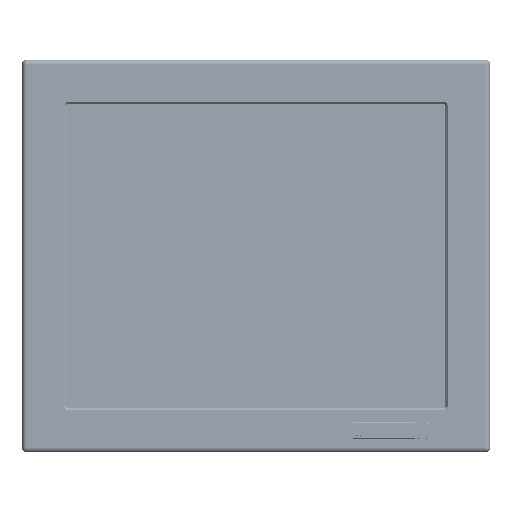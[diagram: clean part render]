
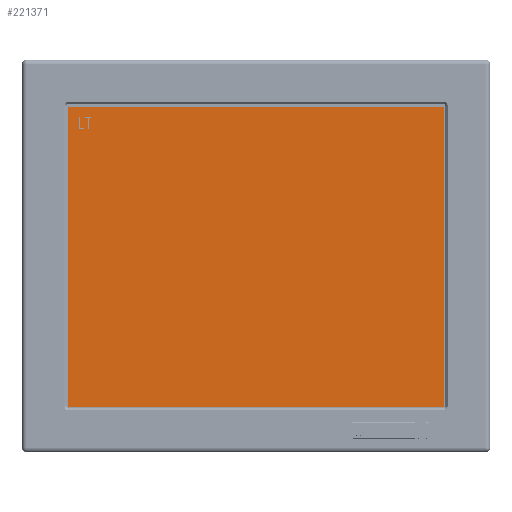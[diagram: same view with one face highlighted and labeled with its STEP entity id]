
A CAD part, top view. The second image highlights one B-rep face of the part: STEP entity #221371.
In plain terms, the highlighted planar face has unit normal (0, 0, 1).
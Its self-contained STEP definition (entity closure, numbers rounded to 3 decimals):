
#1512 = LINE ( 'NONE', #98884, #117536 ) ;
#3938 = ORIENTED_EDGE ( 'NONE', *, *, #277908, .T. ) ;
#4372 = DIRECTION ( 'NONE',  ( 1., 0., 0. ) ) ;
#10819 = VECTOR ( 'NONE', #120103, 1000. ) ;
#12226 = ORIENTED_EDGE ( 'NONE', *, *, #239001, .T. ) ;
#13044 = CARTESIAN_POINT ( 'NONE',  ( -148.782, 140.778, 10.7 ) ) ;
#15739 = VERTEX_POINT ( 'NONE', #256747 ) ;
#17328 = VERTEX_POINT ( 'NONE', #244207 ) ;
#17401 = ORIENTED_EDGE ( 'NONE', *, *, #291464, .T. ) ;
#22137 = VERTEX_POINT ( 'NONE', #229967 ) ;
#22564 = EDGE_CURVE ( 'NONE', #297784, #103751, #46895, .T. ) ;
#28728 = CARTESIAN_POINT ( 'NONE',  ( -140.912, 139.693, 10.7 ) ) ;
#29422 = VECTOR ( 'NONE', #35022, 1000. ) ;
#31685 = LINE ( 'NONE', #28728, #271406 ) ;
#32941 = CARTESIAN_POINT ( 'NONE',  ( -159.189, 149.945, 10.7 ) ) ;
#35022 = DIRECTION ( 'NONE',  ( 1., 0., 0. ) ) ;
#35658 = ORIENTED_EDGE ( 'NONE', *, *, #299913, .T. ) ;
#36811 = EDGE_CURVE ( 'NONE', #116767, #201516, #141430, .T. ) ;
#36893 = CARTESIAN_POINT ( 'NONE',  ( -138.606, 140.778, 10.7 ) ) ;
#37164 = DIRECTION ( 'NONE',  ( -1., 0., 0. ) ) ;
#46666 = ORIENTED_EDGE ( 'NONE', *, *, #243731, .T. ) ;
#46895 = LINE ( 'NONE', #114967, #130370 ) ;
#49837 = CARTESIAN_POINT ( 'NONE',  ( -144.169, 140.778, 10.7 ) ) ;
#50708 = AXIS2_PLACEMENT_3D ( 'NONE', #282439, #143230, #4372 ) ;
#53870 = ORIENTED_EDGE ( 'NONE', *, *, #275495, .T. ) ;
#55952 = CARTESIAN_POINT ( 'NONE',  ( -138.606, 140.778, 10.7 ) ) ;
#57410 = ORIENTED_EDGE ( 'NONE', *, *, #22564, .T. ) ;
#61423 = CARTESIAN_POINT ( 'NONE',  ( -140.912, 130.195, 10.7 ) ) ;
#62544 = ORIENTED_EDGE ( 'NONE', *, *, #244642, .T. ) ;
#63527 = CARTESIAN_POINT ( 'NONE',  ( 177.811, 149.945, 10.7 ) ) ;
#65755 = DIRECTION ( 'NONE',  ( -1., 0., 0. ) ) ;
#75590 = DIRECTION ( 'NONE',  ( 0., -1., 0. ) ) ;
#76389 = VECTOR ( 'NONE', #140466, 1000. ) ;
#76663 = EDGE_CURVE ( 'NONE', #17328, #167871, #127603, .T. ) ;
#78108 = DIRECTION ( 'NONE',  ( 1., 0., 0. ) ) ;
#84722 = DIRECTION ( 'NONE',  ( -1., 0., 0. ) ) ;
#86838 = DIRECTION ( 'NONE',  ( 0., 1., 0. ) ) ;
#91075 = EDGE_LOOP ( 'NONE', ( #3938, #227420, #46666, #220911 ) ) ;
#91084 = FACE_OUTER_BOUND ( 'NONE', #91075, .T. ) ;
#94370 = CARTESIAN_POINT ( 'NONE',  ( 177.811, -119.555, 10.7 ) ) ;
#98884 = CARTESIAN_POINT ( 'NONE',  ( -144.712, 131.28, 10.7 ) ) ;
#100018 = LINE ( 'NONE', #170324, #216242 ) ;
#103602 = ORIENTED_EDGE ( 'NONE', *, *, #211517, .T. ) ;
#103751 = VERTEX_POINT ( 'NONE', #208583 ) ;
#103898 = CARTESIAN_POINT ( 'NONE',  ( -148.782, 131.28, 10.7 ) ) ;
#107921 = LINE ( 'NONE', #266064, #224226 ) ;
#111308 = VERTEX_POINT ( 'NONE', #288593 ) ;
#114967 = CARTESIAN_POINT ( 'NONE',  ( -149.732, 130.195, 10.7 ) ) ;
#116767 = VERTEX_POINT ( 'NONE', #49837 ) ;
#117536 = VECTOR ( 'NONE', #75590, 1000. ) ;
#119549 = EDGE_LOOP ( 'NONE', ( #297396, #62544, #224743, #287716, #233011, #250935, #53870, #128886 ) ) ;
#119938 = VECTOR ( 'NONE', #192091, 1000. ) ;
#120103 = DIRECTION ( 'NONE',  ( 1., 0., 0. ) ) ;
#120306 = VECTOR ( 'NONE', #84722, 1000. ) ;
#122262 = LINE ( 'NONE', #269618, #238491 ) ;
#122985 = EDGE_CURVE ( 'NONE', #111308, #213607, #207159, .T. ) ;
#127603 = LINE ( 'NONE', #61423, #120306 ) ;
#128886 = ORIENTED_EDGE ( 'NONE', *, *, #76663, .T. ) ;
#130370 = VECTOR ( 'NONE', #300777, 1000. ) ;
#130693 = VERTEX_POINT ( 'NONE', #283826 ) ;
#135729 = CARTESIAN_POINT ( 'NONE',  ( -159.189, 149.945, 10.7 ) ) ;
#136897 = VERTEX_POINT ( 'NONE', #146289 ) ;
#140263 = VECTOR ( 'NONE', #143270, 1000. ) ;
#140466 = DIRECTION ( 'NONE',  ( 1., 0., 0. ) ) ;
#141430 = LINE ( 'NONE', #164656, #10819 ) ;
#143230 = DIRECTION ( 'NONE',  ( 0., 0., 1. ) ) ;
#143270 = DIRECTION ( 'NONE',  ( 0., 1., 0. ) ) ;
#144081 = EDGE_CURVE ( 'NONE', #201516, #244389, #278521, .T. ) ;
#145509 = FACE_BOUND ( 'NONE', #119549, .T. ) ;
#146289 = CARTESIAN_POINT ( 'NONE',  ( 177.811, 149.945, 10.7 ) ) ;
#148404 = VECTOR ( 'NONE', #268840, 1000. ) ;
#155336 = CARTESIAN_POINT ( 'NONE',  ( -148.782, 140.778, 10.7 ) ) ;
#155642 = LINE ( 'NONE', #13044, #148404 ) ;
#159971 = LINE ( 'NONE', #103898, #29422 ) ;
#164656 = CARTESIAN_POINT ( 'NONE',  ( -144.169, 140.778, 10.7 ) ) ;
#167871 = VERTEX_POINT ( 'NONE', #281039 ) ;
#168670 = CARTESIAN_POINT ( 'NONE',  ( -141.862, 130.195, 10.7 ) ) ;
#170324 = CARTESIAN_POINT ( 'NONE',  ( -149.732, 140.778, 10.7 ) ) ;
#172451 = EDGE_LOOP ( 'NONE', ( #12226, #57410, #35658, #17401, #103602, #235817 ) ) ;
#175434 = CARTESIAN_POINT ( 'NONE',  ( -149.732, 130.195, 10.7 ) ) ;
#178031 = LINE ( 'NONE', #135729, #294361 ) ;
#181308 = VECTOR ( 'NONE', #261834, 1000. ) ;
#191652 = CARTESIAN_POINT ( 'NONE',  ( -138.606, 139.693, 10.7 ) ) ;
#192091 = DIRECTION ( 'NONE',  ( 0., 1., 0. ) ) ;
#195743 = VECTOR ( 'NONE', #65755, 1000. ) ;
#196169 = VECTOR ( 'NONE', #86838, 1000. ) ;
#196958 = CARTESIAN_POINT ( 'NONE',  ( -141.862, 139.693, 10.7 ) ) ;
#201516 = VERTEX_POINT ( 'NONE', #36893 ) ;
#207159 = LINE ( 'NONE', #210553, #76389 ) ;
#208425 = CARTESIAN_POINT ( 'NONE',  ( -148.782, 131.28, 10.7 ) ) ;
#208583 = CARTESIAN_POINT ( 'NONE',  ( -149.732, 140.778, 10.7 ) ) ;
#210553 = CARTESIAN_POINT ( 'NONE',  ( -159.189, -119.555, 10.7 ) ) ;
#211517 = EDGE_CURVE ( 'NONE', #229409, #15739, #159971, .T. ) ;
#213447 = VERTEX_POINT ( 'NONE', #295462 ) ;
#213607 = VERTEX_POINT ( 'NONE', #94370 ) ;
#216242 = VECTOR ( 'NONE', #78108, 1000. ) ;
#216618 = VECTOR ( 'NONE', #218305, 1000. ) ;
#218305 = DIRECTION ( 'NONE',  ( 0., -1., 0. ) ) ;
#220911 = ORIENTED_EDGE ( 'NONE', *, *, #293440, .T. ) ;
#221371 = ADVANCED_FACE ( 'NONE', ( #269173, #91084, #145509 ), #281449, .T. ) ;
#224226 = VECTOR ( 'NONE', #237525, 1000. ) ;
#224743 = ORIENTED_EDGE ( 'NONE', *, *, #236169, .T. ) ;
#227420 = ORIENTED_EDGE ( 'NONE', *, *, #122985, .T. ) ;
#228048 = VERTEX_POINT ( 'NONE', #196958 ) ;
#229409 = VERTEX_POINT ( 'NONE', #208425 ) ;
#229967 = CARTESIAN_POINT ( 'NONE',  ( -144.169, 139.693, 10.7 ) ) ;
#233011 = ORIENTED_EDGE ( 'NONE', *, *, #144081, .T. ) ;
#235817 = ORIENTED_EDGE ( 'NONE', *, *, #265388, .T. ) ;
#236169 = EDGE_CURVE ( 'NONE', #22137, #116767, #263885, .T. ) ;
#237525 = DIRECTION ( 'NONE',  ( -1., 0., 0. ) ) ;
#238491 = VECTOR ( 'NONE', #37164, 1000. ) ;
#239001 = EDGE_CURVE ( 'NONE', #213447, #297784, #122262, .T. ) ;
#242585 = VERTEX_POINT ( 'NONE', #32941 ) ;
#243193 = LINE ( 'NONE', #191652, #181308 ) ;
#243490 = LINE ( 'NONE', #168670, #119938 ) ;
#243731 = EDGE_CURVE ( 'NONE', #213607, #136897, #265342, .T. ) ;
#244207 = CARTESIAN_POINT ( 'NONE',  ( -140.912, 130.195, 10.7 ) ) ;
#244389 = VERTEX_POINT ( 'NONE', #274305 ) ;
#244642 = EDGE_CURVE ( 'NONE', #228048, #22137, #107921, .T. ) ;
#250935 = ORIENTED_EDGE ( 'NONE', *, *, #268402, .T. ) ;
#256747 = CARTESIAN_POINT ( 'NONE',  ( -144.712, 131.28, 10.7 ) ) ;
#261115 = DIRECTION ( 'NONE',  ( 0., -1., 0. ) ) ;
#261834 = DIRECTION ( 'NONE',  ( -1., 0., 0. ) ) ;
#263885 = LINE ( 'NONE', #282482, #140263 ) ;
#264924 = LINE ( 'NONE', #274891, #195743 ) ;
#265342 = LINE ( 'NONE', #63527, #196169 ) ;
#265388 = EDGE_CURVE ( 'NONE', #15739, #213447, #1512, .T. ) ;
#266064 = CARTESIAN_POINT ( 'NONE',  ( -141.862, 139.693, 10.7 ) ) ;
#268402 = EDGE_CURVE ( 'NONE', #244389, #130693, #243193, .T. ) ;
#268840 = DIRECTION ( 'NONE',  ( 0., -1., 0. ) ) ;
#269173 = FACE_BOUND ( 'NONE', #172451, .T. ) ;
#269618 = CARTESIAN_POINT ( 'NONE',  ( -144.712, 130.195, 10.7 ) ) ;
#271406 = VECTOR ( 'NONE', #261115, 1000. ) ;
#274305 = CARTESIAN_POINT ( 'NONE',  ( -138.606, 139.693, 10.7 ) ) ;
#274891 = CARTESIAN_POINT ( 'NONE',  ( -159.189, 149.945, 10.7 ) ) ;
#275495 = EDGE_CURVE ( 'NONE', #130693, #17328, #31685, .T. ) ;
#277908 = EDGE_CURVE ( 'NONE', #242585, #111308, #178031, .T. ) ;
#278521 = LINE ( 'NONE', #55952, #216618 ) ;
#281039 = CARTESIAN_POINT ( 'NONE',  ( -141.862, 130.195, 10.7 ) ) ;
#281449 = PLANE ( 'NONE',  #50708 ) ;
#281988 = EDGE_CURVE ( 'NONE', #167871, #228048, #243490, .T. ) ;
#282439 = CARTESIAN_POINT ( 'NONE',  ( -159.189, -119.555, 10.7 ) ) ;
#282482 = CARTESIAN_POINT ( 'NONE',  ( -144.169, 139.693, 10.7 ) ) ;
#283826 = CARTESIAN_POINT ( 'NONE',  ( -140.912, 139.693, 10.7 ) ) ;
#287716 = ORIENTED_EDGE ( 'NONE', *, *, #36811, .T. ) ;
#288593 = CARTESIAN_POINT ( 'NONE',  ( -159.189, -119.555, 10.7 ) ) ;
#291464 = EDGE_CURVE ( 'NONE', #299592, #229409, #155642, .T. ) ;
#293440 = EDGE_CURVE ( 'NONE', #136897, #242585, #264924, .T. ) ;
#294361 = VECTOR ( 'NONE', #298219, 1000. ) ;
#295462 = CARTESIAN_POINT ( 'NONE',  ( -144.712, 130.195, 10.7 ) ) ;
#297396 = ORIENTED_EDGE ( 'NONE', *, *, #281988, .T. ) ;
#297784 = VERTEX_POINT ( 'NONE', #175434 ) ;
#298219 = DIRECTION ( 'NONE',  ( 0., -1., 0. ) ) ;
#299592 = VERTEX_POINT ( 'NONE', #155336 ) ;
#299913 = EDGE_CURVE ( 'NONE', #103751, #299592, #100018, .T. ) ;
#300777 = DIRECTION ( 'NONE',  ( 0., 1., 0. ) ) ;
